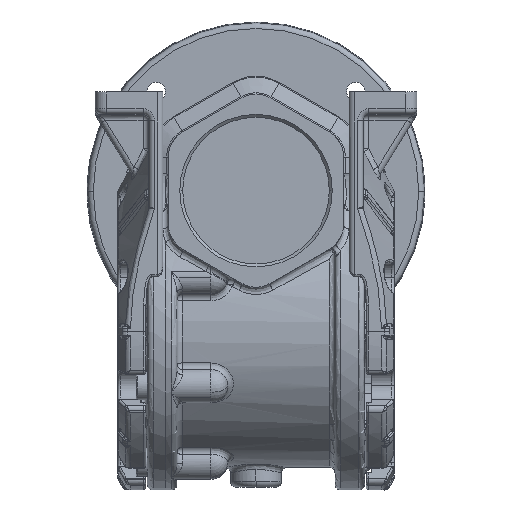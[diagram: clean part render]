
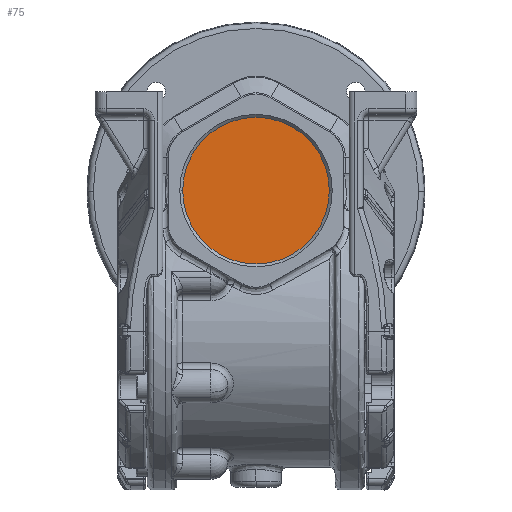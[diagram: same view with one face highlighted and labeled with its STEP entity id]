
A CAD part, top view. The second image highlights one B-rep face of the part: STEP entity #75.
In plain terms, the highlighted planar face has unit normal (0, 0, 1).
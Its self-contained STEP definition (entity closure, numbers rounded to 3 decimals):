
#73 = ORIENTED_EDGE ( 'NONE', *, *, #22094, .T. ) ;
#75 = ADVANCED_FACE ( 'NONE', ( #41064 ), #41755, .T. ) ;
#740 = EDGE_LOOP ( 'NONE', ( #125349, #73 ) ) ;
#22094 = EDGE_CURVE ( 'NONE', #22286, #22287, #112832, .T. ) ;
#22286 = VERTEX_POINT ( 'NONE', #113203 ) ;
#22287 = VERTEX_POINT ( 'NONE', #113208 ) ;
#41064 = FACE_OUTER_BOUND ( 'NONE', #740, .T. ) ;
#41734 = DIRECTION ( 'NONE',  ( 1., 0., 0. ) ) ;
#41736 = DIRECTION ( 'NONE',  ( 0., 0., 1. ) ) ;
#41738 = CARTESIAN_POINT ( 'NONE',  ( 0., 0., 64. ) ) ;
#41739 = AXIS2_PLACEMENT_3D ( 'NONE', #41738, #41736, #41734 ) ;
#41755 = PLANE ( 'NONE',  #41739 ) ;
#94299 = DIRECTION ( 'NONE',  ( 1., 0., 0. ) ) ;
#94302 = DIRECTION ( 'NONE',  ( 0., 0., 1. ) ) ;
#94303 = CARTESIAN_POINT ( 'NONE',  ( 0., 0., 64. ) ) ;
#94306 = AXIS2_PLACEMENT_3D ( 'NONE', #94303, #94302, #94299 ) ;
#94308 = CIRCLE ( 'NONE', #94306, 26. ) ;
#112829 = AXIS2_PLACEMENT_3D ( 'NONE', #112856, #112888, #112887 ) ;
#112832 = CIRCLE ( 'NONE', #112829, 26. ) ;
#112856 = CARTESIAN_POINT ( 'NONE',  ( 0., 0., 64. ) ) ;
#112887 = DIRECTION ( 'NONE',  ( 1., 0., 0. ) ) ;
#112888 = DIRECTION ( 'NONE',  ( 0., 0., 1. ) ) ;
#113203 = CARTESIAN_POINT ( 'NONE',  ( -26., 0., 64. ) ) ;
#113208 = CARTESIAN_POINT ( 'NONE',  ( 26., 0., 64. ) ) ;
#125349 = ORIENTED_EDGE ( 'NONE', *, *, #125352, .T. ) ;
#125352 = EDGE_CURVE ( 'NONE', #22287, #22286, #94308, .T. ) ;
